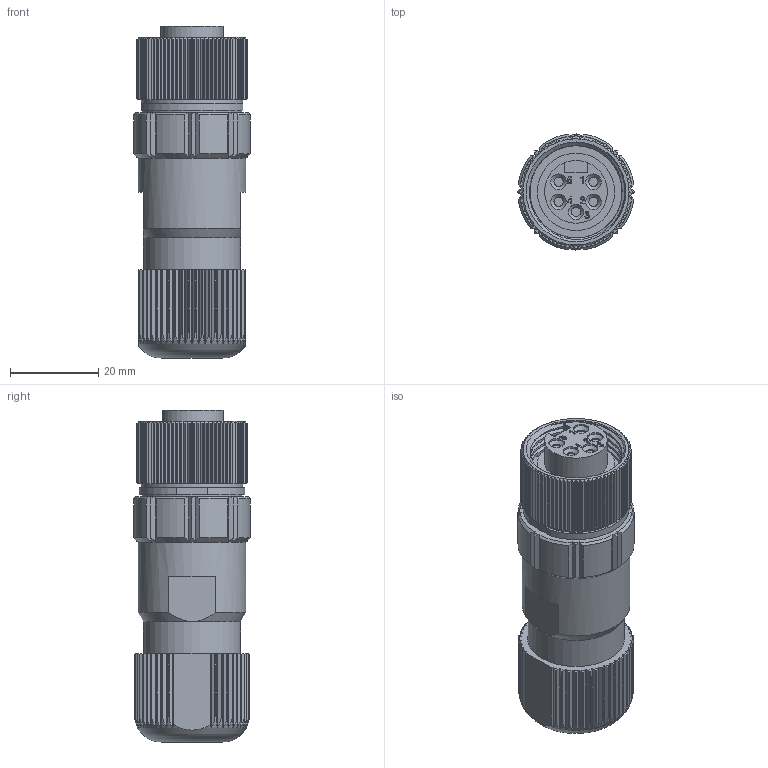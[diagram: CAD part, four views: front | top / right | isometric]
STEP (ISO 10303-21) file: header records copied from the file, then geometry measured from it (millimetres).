
FILE_DESCRIPTION (( 'STEP AP203' ), '1' );
FILE_NAME ('CM03-P5S(R1).STEP', '2022-04-07T03:04:34', ( '' ), ( '' ), 'SwSTEP 2.0', 'SolidWorks 2018', '' );
FILE_SCHEMA (( 'CONFIG_CONTROL_DESIGN' ));
Length unit declared in the file: millimetre
Products named in the file (1): CM03-P5S(R1)
Bounding box: 26.4 x 26.4 x 75.1 mm (x, y, z)
Volume: 24867.4 mm3; surface area: 11205.2 mm2
Topology: 1 solids, 1 shells, 1082 faces, 3154 edges, 2098 vertices
Faces by surface type: cylinder 516, plane 357, cone 146, bspline 61, torus 2
Full cylindrical faces by diameter (mm): 2.1 x5, 3.5 x5, 12 x1, 12.5 x1, 12.7 x1, 13 x1, 17.5 x1, 18.4 x1, 21.95 x1, 22.6 x1, 22.7 x1, 22.9 x1, 24.4 x1
Entity records: 39675 total; most frequent: CARTESIAN_POINT 13318, ORIENTED_EDGE 6224, DIRECTION 4450, EDGE_CURVE 3112, VERTEX_POINT 2089, AXIS2_PLACEMENT_3D 1596, B_SPLINE_CURVE_WITH_KNOTS 1276, LINE 1258
